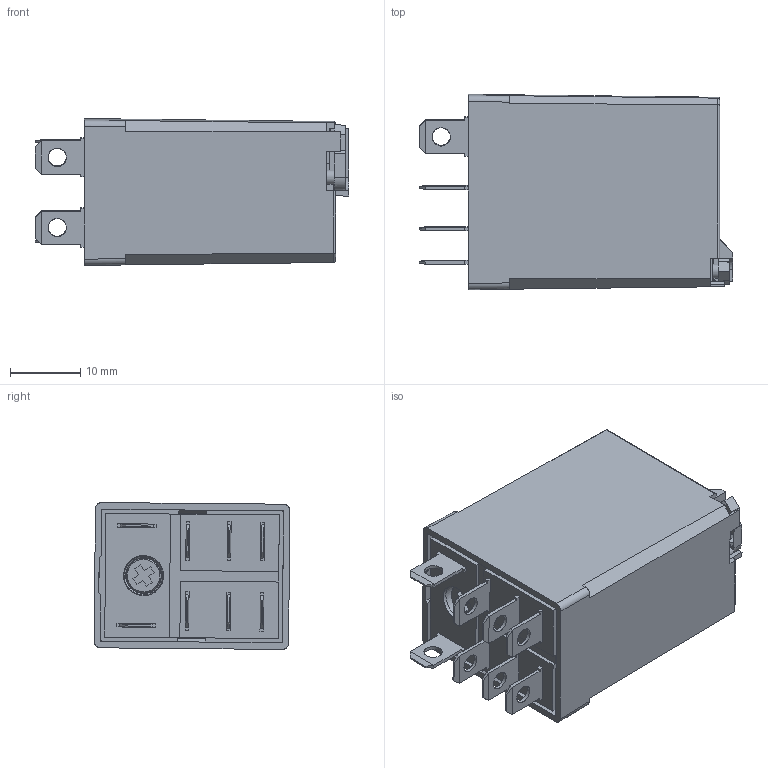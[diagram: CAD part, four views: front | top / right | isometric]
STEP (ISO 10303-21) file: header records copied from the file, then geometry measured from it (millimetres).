
FILE_DESCRIPTION(('STEP AP214'),'2;1');
FILE_NAME('5632_con pulsante-nota tecnica T-catalogo.stp','2010-11-18T13:28:02',(''),(''),'2007.1.106','THINKDESIGN','');
FILE_SCHEMA(('AUTOMOTIVE_DESIGN'));
Length unit declared in the file: millimetre
Products named in the file (1): None
Bounding box: 44.7 x 27.85 x 20.91 mm (x, y, z)
Surface area: 8313.9 mm2 (no closed solid volume)
Topology: 0 solids, 0 shells, 261 faces, 1529 edges, 1522 vertices
Faces by surface type: plane 201, bspline 34, cylinder 26
Full cylindrical faces by diameter (mm): 2 x1, 2.6 x8, 5 x1
Entity records: 15382 total; most frequent: CARTESIAN_POINT 4678, DIRECTION 1770, COMPOSITE_CURVE_SEGMENT 1529, TRIMMED_CURVE 1258, VECTOR 1238, LINE 1238, AXIS2_PLACEMENT_3D 266, OUTER_BOUNDARY_CURVE 261
